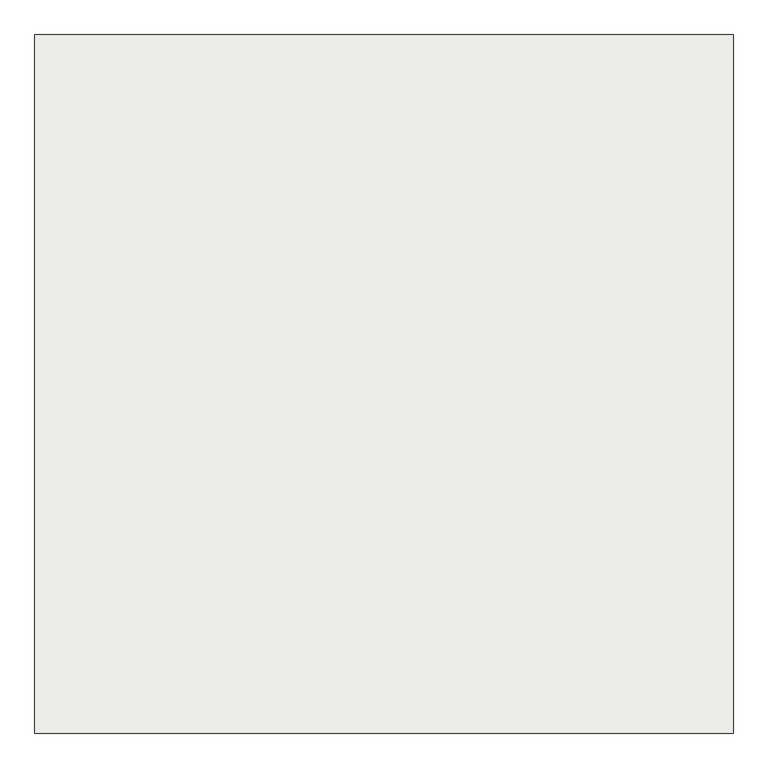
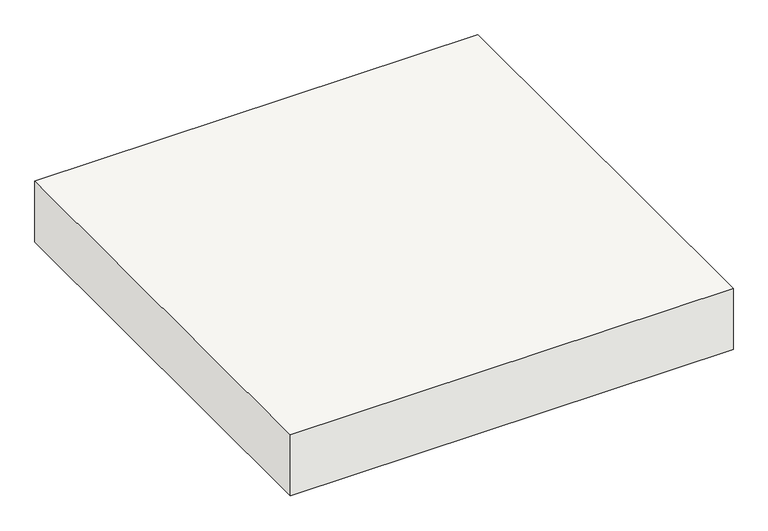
"""IFC4 building model written with IfcOpenShell, lengths in millimetres: slab geometry, ラップルコンクリート_基礎下端1 : ラップルコンクリート."""

from ifc_helpers import new_model, si_unit, frame, origin, place, context, project, spatial, polyline, outline, extrude, source, transform, mapped, element, save


def slab_3ff351dd(model_context):
    return source(origin(), model_context, "Body", "SweptSolid", [
        extrude(outline(polyline([(8550.0, 25550.0), (8550.0, 22450.0), (5450.0, 22450.0), (5450.0, 25550.0), (8550.0, 25550.0)])), frame((0.0, 0.0, -3050.0), z_axis=(0.0, 0.0, 1.0), x_axis=(1.0, 0.0, 0.0)), (0.0, 0.0, 1.0), 450.0),
    ])


if __name__ == "__main__":
    model = new_model("IFC4")
    model_context = context("Model", 3, world=origin())
    ifc_project = project(units=[si_unit("LENGTHUNIT", "METRE", prefix="MILLI")], contexts=[model_context])
    site = spatial("IfcSite", under=ifc_project)
    building = spatial("IfcBuilding", under=site)
    placement = place(None, origin())
    slab_shape = slab_3ff351dd(model_context)
    element("IfcSlab", 1, ObjectType="ラップルコンクリート_基礎下端1 : ラップルコンクリート", at=placement, inside=building, context=model_context, shape_type="MappedRepresentation", body=[
        mapped(slab_shape, transform((0.0, 0.0, 0.0), x_axis=(1.0, 0.0, 0.0), y_axis=(0.0, 1.0, 0.0), z_axis=(0.0, 0.0, 1.0))),
    ])
    save(model, "model.ifc")
